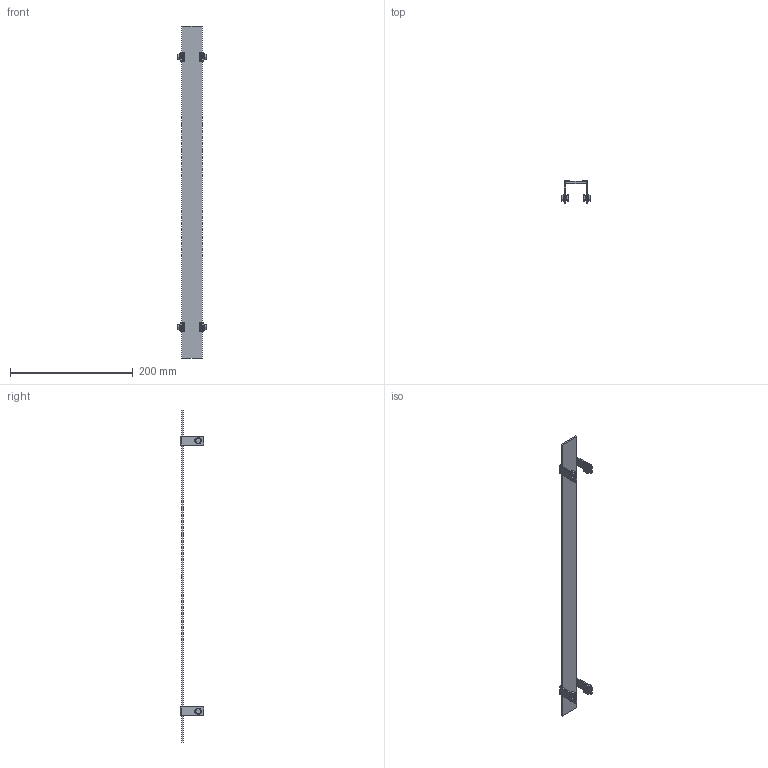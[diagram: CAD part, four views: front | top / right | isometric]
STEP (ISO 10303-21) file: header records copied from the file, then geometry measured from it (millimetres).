
FILE_DESCRIPTION((''),'2;1');
FILE_NAME('2011174_ASM','2012-09-05T',('rink'),(''),'PRO/ENGINEER BY PARAMETRIC TECHNOLOGY CORPORATION, 2011040','PRO/ENGINEER BY PARAMETRIC TECHNOLOGY CORPORATION, 2011040','');
FILE_SCHEMA(('AUTOMOTIVE_DESIGN_CC2 { 1 2 10303 214 -1 1 5 2 }'));
Length unit declared in the file: millimetre
Products named in the file (7): 2011173; 2011161; 2003292; 2011162; 2011167; 2011163_ASM; 2011174_ASM
Assembly tree (9 placements, depth 3):
  2011174_ASM
    2011173
    2011163_ASM  x4
      2011161
      2003292
      2011162
      2011167
Bounding box: 46.8 x 38 x 540 mm (x, y, z)
Volume: 61294.7 mm3; surface area: 48904.6 mm2
Topology: 17 solids, 21 shells, 373 faces, 945 edges, 650 vertices
Faces by surface type: plane 241, cylinder 84, cone 40, torus 8
Entity records: 5385 total; most frequent: CARTESIAN_POINT 751, DIRECTION 705, ORIENTED_EDGE 604, PRESENTATION_STYLE_ASSIGNMENT 366, STYLED_ITEM 335, CURVE_STYLE 329, EDGE_CURVE 304, VECTOR 237
